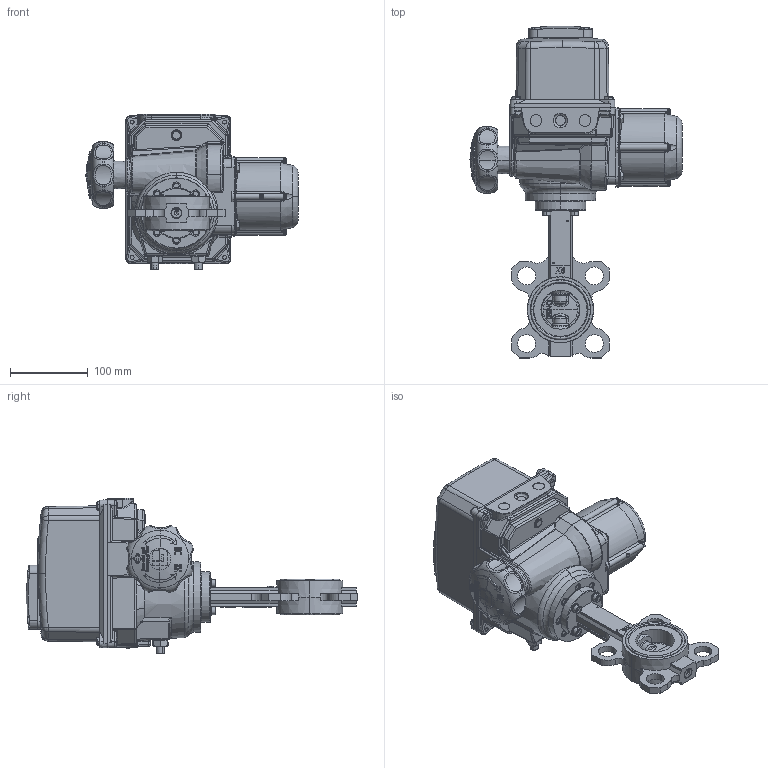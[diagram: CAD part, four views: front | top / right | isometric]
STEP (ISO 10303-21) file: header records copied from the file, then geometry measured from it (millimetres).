
FILE_DESCRIPTION (( 'STEP AP203' ), '1' );
FILE_NAME ('VPI-B24 DN50.step', '2016-09-29T14:57:36', ( 'TECOFI' ), ( '' ), 'SwSTEP 2.0', 'SolidWorks 2014', '' );
FILE_SCHEMA (( 'CONFIG_CONTROL_DESIGN' ));
Products named in the file (1): VPI-B24 DN50
Bounding box: 272.5 x 426.7 x 199.8 mm (x, y, z)
Volume: 4896290.9 mm3; surface area: 307442.4 mm2
Topology: 14 solids, 14 shells, 2908 faces, 7490 edges, 4760 vertices
Faces by surface type: plane 1378, bspline 641, cylinder 503, cone 153, torus 125, sphere 108
Entity records: 122963 total; most frequent: CARTESIAN_POINT 56967, ORIENTED_EDGE 14890, DIRECTION 12124, EDGE_CURVE 7445, VERTEX_POINT 4760, AXIS2_PLACEMENT_3D 4387, VECTOR 3350, LINE 3350
